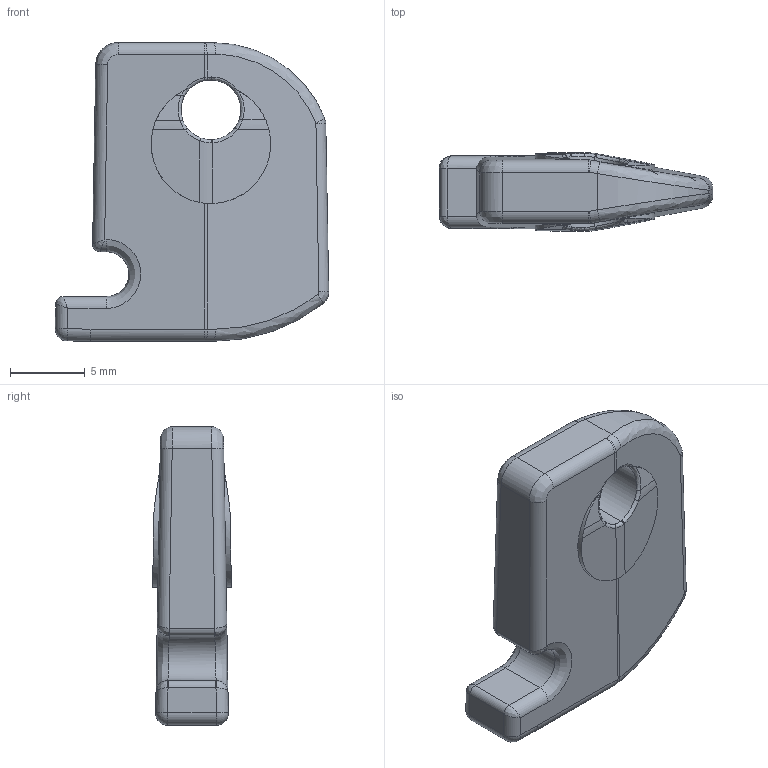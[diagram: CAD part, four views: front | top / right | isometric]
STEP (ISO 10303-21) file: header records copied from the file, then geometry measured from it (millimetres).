
FILE_DESCRIPTION((''),'2;1');
FILE_NAME('P1316','2012-05-24T',('jas'),(''),'PRO/ENGINEER BY PARAMETRIC TECHNOLOGY CORPORATION, 2012060','PRO/ENGINEER BY PARAMETRIC TECHNOLOGY CORPORATION, 2012060','');
FILE_SCHEMA(('AUTOMOTIVE_DESIGN { 1 0 10303 214 1 1 1 1 }'));
Length unit declared in the file: millimetre
Products named in the file (1): P1316
Bounding box: 18.31 x 5.27 x 20 mm (x, y, z)
Volume: 1108.6 mm3; surface area: 861.3 mm2
Topology: 1 solids, 1 shells, 117 faces, 279 edges, 162 vertices
Faces by surface type: bspline 50, cylinder 43, plane 22, sphere 2
Entity records: 7169 total; most frequent: CARTESIAN_POINT 3686, ORIENTED_EDGE 558, DIRECTION 351, PRESENTATION_STYLE_ASSIGNMENT 280, STYLED_ITEM 280, CURVE_STYLE 279, EDGE_CURVE 279, VERTEX_POINT 162
